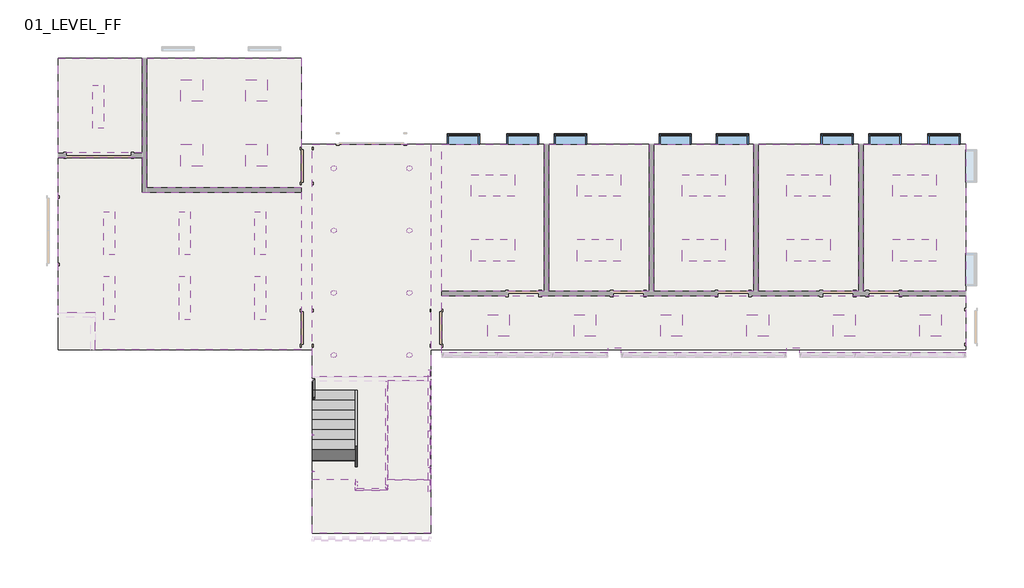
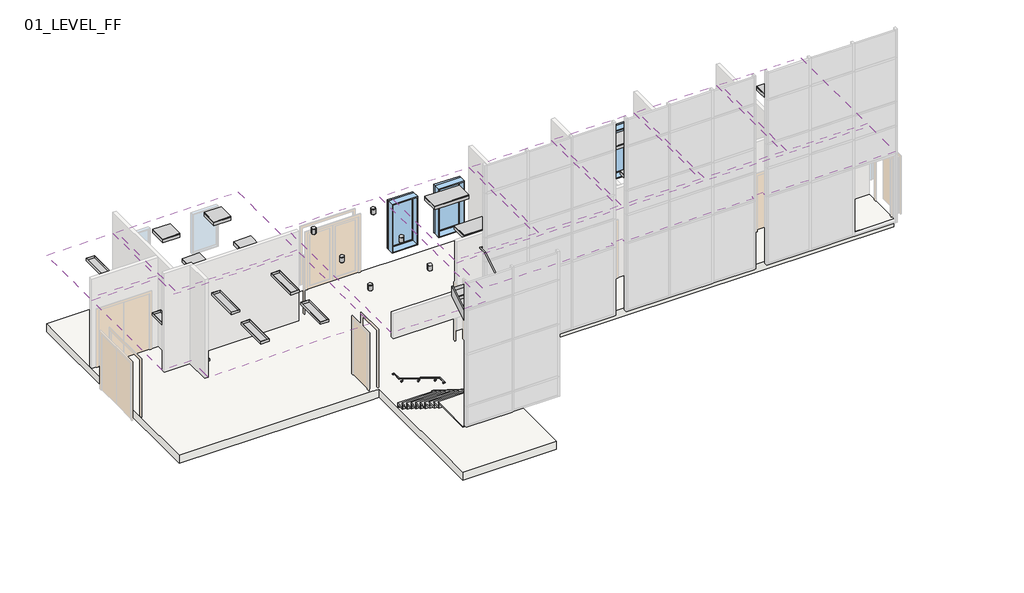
# One storey, part 3 of 3: 35 light fixtures, 10 coverings, 8 windows, 5 members, 5 proxies, 2 railings, 2 slabs, 2 stair flights.
"""IFC4 building model written with IfcOpenShell, lengths in millimetres."""

from ifc_helpers import new_model, si_unit, point, frame, frame_2d, origin, place, context, project, spatial, polyline, circle_curve, ellipse_curve, trimmed, segment, composite_curve, outline, extrude, faceted_brep, transform, mapped, element, save
from ifc_brep_helpers import plane_surface, cylinder_surface, advanced_brep
from components import support_metal_circular_support_metal_circular_ae412147, ceiling_light_linear_box_1_x4_1_lamp_120v_8873ebfc, light_fixture_e8692caf, troffer_light_2x2_parabolic_2_x2_2_lamp_120v_42650cf3, troffer_light_2x4_parabolic_2_x4_2_lamp_120v_ca384779, non_monolithic_landing_28c1c1f5, stair_flight_a3a9bd27, stair_flight_eade957a, window_c524ad49, window_9a1f8bc2

model = new_model("IFC4")

# Units and contexts
model_context = context("Model", 3, world=origin())
ifc_project = project(units=[si_unit("LENGTHUNIT", "METRE", prefix="MILLI")], contexts=[model_context])

# Site, building, storey
site = spatial("IfcSite", under=ifc_project)
building = spatial("IfcBuilding", under=site)
storey = spatial("IfcBuildingStorey", under=building, Name="01_LEVEL_FF", Elevation=0.0)

# Proxies
placement = place(None, origin())
support_metal_circular_support_metal_circular_shape = support_metal_circular_support_metal_circular_ae412147(model_context)
element("IfcBuildingElementProxy", 1, Name="Support - Metal - Circular : Support - Metal - Circular", ObjectType="Support - Metal - Circular : Support - Metal - Circular", at=placement, inside=storey, context=model_context, shape_type="MappedRepresentation", body=[
    mapped(support_metal_circular_support_metal_circular_shape, transform((28337.7316981, 24803.0669189, 1189.2763928), x_axis=(0.0, 1.0, 0.0), y_axis=(-1.0, 0.0, 0.0), z_axis=(0.0, 0.0, 1.0))),
])
element("IfcBuildingElementProxy", 2, Name="Support - Metal - Circular : Support - Metal - Circular", ObjectType="Support - Metal - Circular : Support - Metal - Circular", at=placement, inside=storey, context=model_context, shape_type="MappedRepresentation", body=[
    mapped(support_metal_circular_support_metal_circular_shape, transform((28337.7316981, 23768.4332157, 1834.2428571), x_axis=(0.0, 1.0, 0.0), y_axis=(-1.0, 0.0, 0.0), z_axis=(0.0, 0.0, 1.0))),
])
element("IfcBuildingElementProxy", 3, Name="Support - Metal - Circular : Support - Metal - Circular", ObjectType="Support - Metal - Circular : Support - Metal - Circular", at=placement, inside=storey, context=model_context, shape_type="MappedRepresentation", body=[
    mapped(support_metal_circular_support_metal_circular_shape, transform((28337.7316981, 22733.7995125, 2479.2093215), x_axis=(0.0, 1.0, 0.0), y_axis=(-1.0, 0.0, 0.0), z_axis=(0.0, 0.0, 1.0))),
])
element("IfcBuildingElementProxy", 4, Name="Support - Metal - Circular : Support - Metal - Circular", ObjectType="Support - Metal - Circular : Support - Metal - Circular", at=placement, inside=storey, context=model_context, shape_type="MappedRepresentation", body=[
    mapped(support_metal_circular_support_metal_circular_shape, transform((31576.2316981, 22848.0995125, 3018.0763928), x_axis=(0.0, -1.0, 0.0), y_axis=(1.0, 0.0, 0.0), z_axis=(0.0, 0.0, 1.0))),
])
element("IfcBuildingElementProxy", 5, Name="Support - Metal - Circular : Support - Metal - Circular", ObjectType="Support - Metal - Circular : Support - Metal - Circular", at=placement, inside=storey, context=model_context, shape_type="MappedRepresentation", body=[
    mapped(support_metal_circular_support_metal_circular_shape, transform((31576.2316981, 23882.7332157, 3663.0428571), x_axis=(0.0, -1.0, 0.0), y_axis=(1.0, 0.0, 0.0), z_axis=(0.0, 0.0, 1.0))),
])

# Coverings
element("IfcCovering", 6, ObjectType="2' x 2' ACT System", at=placement, inside=storey, context=model_context, shape_type="SweptSolid", body=[
    extrude(outline(polyline([(34831.2416981, 27819.7332157), (31938.1816981, 27819.7332157), (31938.1816981, 31959.9332157), (34831.2416981, 31959.9332157), (34831.2416981, 27819.7332157)]), holes=[polyline([(33994.3116981, 31109.0332157), (32775.1116981, 31109.0332157), (32775.1116981, 30499.4332157), (33994.3116981, 30499.4332157), (33994.3116981, 31109.0332157)]), polyline([(33994.3116981, 29280.2332157), (32775.1116981, 29280.2332157), (32775.1116981, 28670.6332157), (33994.3116981, 28670.6332157), (33994.3116981, 29280.2332157)])]), frame((0.0, 0.0, 2590.8), z_axis=(0.0, 0.0, 1.0), x_axis=(1.0, 0.0, 0.0)), (0.0, 0.0, 1.0), 57.15),
])
element("IfcCovering", 7, ObjectType="2' x 2' ACT System", at=placement, inside=storey, context=model_context, shape_type="SweptSolid", body=[
    extrude(outline(polyline([(34958.2416981, 27819.7332157), (34958.2416981, 31959.9332157), (37787.8016981, 31959.9332157), (37787.8016981, 27819.7332157), (34958.2416981, 27819.7332157)]), holes=[polyline([(36982.6216981, 31109.0332157), (35763.4216981, 31109.0332157), (35763.4216981, 30499.4332157), (36982.6216981, 30499.4332157), (36982.6216981, 31109.0332157)]), polyline([(36982.6216981, 29280.2332157), (35763.4216981, 29280.2332157), (35763.4216981, 28670.6332157), (36982.6216981, 28670.6332157), (36982.6216981, 29280.2332157)])]), frame((0.0, 0.0, 2590.8), z_axis=(0.0, 0.0, 1.0), x_axis=(1.0, 0.0, 0.0)), (0.0, 0.0, 1.0), 57.15),
])
element("IfcCovering", 8, ObjectType="2' x 2' ACT System", at=placement, inside=storey, context=model_context, shape_type="SweptSolid", body=[
    extrude(outline(polyline([(37914.8016981, 27819.7332157), (37914.8016981, 31959.9332157), (40744.3616981, 31959.9332157), (40744.3616981, 27819.7332157), (37914.8016981, 27819.7332157)]), holes=[polyline([(39939.1816981, 31109.0332157), (38719.9816981, 31109.0332157), (38719.9816981, 30499.4332157), (39939.1816981, 30499.4332157), (39939.1816981, 31109.0332157)]), polyline([(39939.1816981, 29280.2332157), (38719.9816981, 29280.2332157), (38719.9816981, 28670.6332157), (39939.1816981, 28670.6332157), (39939.1816981, 29280.2332157)])]), frame((0.0, 0.0, 2590.8), z_axis=(0.0, 0.0, 1.0), x_axis=(1.0, 0.0, 0.0)), (0.0, 0.0, 1.0), 57.15),
])
element("IfcCovering", 9, ObjectType="2' x 2' ACT System", at=placement, inside=storey, context=model_context, shape_type="SweptSolid", body=[
    extrude(outline(polyline([(40871.3616981, 27819.7332157), (40871.3616981, 31959.9332157), (43700.9216981, 31959.9332157), (43700.9216981, 27819.7332157), (40871.3616981, 27819.7332157)]), holes=[polyline([(42895.7416981, 31109.0332157), (41676.5416981, 31109.0332157), (41676.5416981, 30499.4332157), (42895.7416981, 30499.4332157), (42895.7416981, 31109.0332157)]), polyline([(42895.7416981, 29280.2332157), (41676.5416981, 29280.2332157), (41676.5416981, 28670.6332157), (42895.7416981, 28670.6332157), (42895.7416981, 29280.2332157)])]), frame((0.0, 0.0, 2590.8), z_axis=(0.0, 0.0, 1.0), x_axis=(1.0, 0.0, 0.0)), (0.0, 0.0, 1.0), 57.15),
])
element("IfcCovering", 10, ObjectType="2' x 2' ACT System", at=placement, inside=storey, context=model_context, shape_type="SweptSolid", body=[
    extrude(outline(polyline([(46720.9816981, 31959.9332157), (46720.9816981, 27819.7332157), (43827.9216981, 27819.7332157), (43827.9216981, 31959.9332157), (46720.9816981, 31959.9332157)]), holes=[polyline([(45884.0516981, 31109.0332157), (44664.8516981, 31109.0332157), (44664.8516981, 30499.4332157), (45884.0516981, 30499.4332157), (45884.0516981, 31109.0332157)]), polyline([(45884.0516981, 29280.2332157), (44664.8516981, 29280.2332157), (44664.8516981, 28670.6332157), (45884.0516981, 28670.6332157), (45884.0516981, 29280.2332157)])]), frame((0.0, 0.0, 2590.8), z_axis=(0.0, 0.0, 1.0), x_axis=(1.0, 0.0, 0.0)), (0.0, 0.0, 1.0), 57.15),
])
element("IfcCovering", 11, ObjectType="2' x 2' ACT System", at=placement, inside=storey, context=model_context, shape_type="SweptSolid", body=[
    extrude(outline(polyline([(23619.6816981, 34398.3332157), (27975.7816981, 34398.3332157), (27975.7816981, 32112.3332157), (27975.7816981, 30740.7332157), (23619.6816981, 30740.7332157), (23619.6816981, 34398.3332157)]), holes=[polyline([(25188.1316981, 33788.7332157), (24578.5316981, 33788.7332157), (24578.5316981, 33179.1332157), (25188.1316981, 33179.1332157), (25188.1316981, 33788.7332157)]), polyline([(27016.9316981, 33788.7332157), (26407.3316981, 33788.7332157), (26407.3316981, 33179.1332157), (27016.9316981, 33179.1332157), (27016.9316981, 33788.7332157)]), polyline([(27016.9316981, 31959.9332157), (26407.3316981, 31959.9332157), (26407.3316981, 31350.3332157), (27016.9316981, 31350.3332157), (27016.9316981, 31959.9332157)]), polyline([(25188.1316981, 31959.9332157), (24578.5316981, 31959.9332157), (24578.5316981, 31350.3332157), (25188.1316981, 31350.3332157), (25188.1316981, 31959.9332157)])]), frame((0.0, 0.0, 2590.8), z_axis=(0.0, 0.0, 1.0), x_axis=(1.0, 0.0, 0.0)), (0.0, 0.0, 1.0), 57.15),
])
element("IfcCovering", 12, ObjectType="2' x 2' ACT System", at=placement, inside=storey, context=model_context, shape_type="SweptSolid", body=[
    extrude(outline(polyline([(46720.9816981, 27692.7332157), (46720.9816981, 26079.8332157), (42034.6816981, 26079.8332157), (42034.6816981, 26206.8332157), (41653.6816981, 26206.8332157), (41653.6816981, 26079.8332157), (37005.4816981, 26079.8332157), (37005.4816981, 26206.8332157), (36624.4816981, 26206.8332157), (36624.4816981, 26079.8332157), (31938.1816981, 26079.8332157), (31938.1816981, 27692.7332157), (46720.9816981, 27692.7332157)]), holes=[polyline([(33843.1816981, 27159.3332157), (33233.5816981, 27159.3332157), (33233.5816981, 26549.7332157), (33843.1816981, 26549.7332157), (33843.1816981, 27159.3332157)]), polyline([(36281.5816981, 27159.3332157), (35671.9816981, 27159.3332157), (35671.9816981, 26549.7332157), (36281.5816981, 26549.7332157), (36281.5816981, 27159.3332157)]), polyline([(38719.9816981, 27159.3332157), (38110.3816981, 27159.3332157), (38110.3816981, 26549.7332157), (38719.9816981, 26549.7332157), (38719.9816981, 27159.3332157)]), polyline([(41158.3816981, 27159.3332157), (40548.7816981, 27159.3332157), (40548.7816981, 26549.7332157), (41158.3816981, 26549.7332157), (41158.3816981, 27159.3332157)]), polyline([(43596.7816981, 27159.3332157), (42987.1816981, 27159.3332157), (42987.1816981, 26549.7332157), (43596.7816981, 26549.7332157), (43596.7816981, 27159.3332157)]), polyline([(46035.1816981, 27159.3332157), (45425.5816981, 27159.3332157), (45425.5816981, 26549.7332157), (46035.1816981, 26549.7332157), (46035.1816981, 27159.3332157)])]), frame((0.0, 0.0, 2590.8), z_axis=(0.0, 0.0, 1.0), x_axis=(1.0, 0.0, 0.0)), (0.0, 0.0, 1.0), 57.15),
])
element("IfcCovering", 13, ObjectType="GWB on Mtl. Stud", at=placement, inside=storey, context=model_context, shape_type="SweptSolid", body=[
    extrude(outline(polyline([(22159.1816981, 27210.1332157), (21117.7816981, 27210.1332157), (21117.7816981, 31591.6332157), (23492.6816981, 31591.6332157), (23492.6816981, 30613.7332157), (27975.7816981, 30613.7332157), (27975.7816981, 26168.7332157), (22159.1816981, 26168.7332157), (22159.1816981, 27210.1332157)])), frame((0.0, 0.0, 2590.8), z_axis=(0.0, 0.0, 1.0), x_axis=(1.0, 0.0, 0.0)), (0.0, 0.0, 1.0), 107.95),
])
element("IfcCovering", 14, ObjectType="GWB on Mtl. Stud", at=placement, inside=storey, context=model_context, shape_type="SweptSolid", body=[
    extrude(outline(polyline([(21117.7816981, 34398.3332157), (23492.6816981, 34398.3332157), (23492.6816981, 31718.6332157), (21117.7816981, 31718.6332157), (21117.7816981, 34398.3332157)])), frame((0.0, 0.0, 2590.8), z_axis=(0.0, 0.0, 1.0), x_axis=(1.0, 0.0, 0.0)), (0.0, 0.0, 1.0), 107.95),
])
element("IfcCovering", 15, ObjectType="GWB on Mtl. Stud", at=placement, inside=storey, context=model_context, shape_type="SweptSolid", body=[
    extrude(outline(polyline([(28280.5816981, 26016.3332157), (28280.5816981, 31959.9332157), (31633.3816981, 31959.9332157), (31633.3816981, 26016.3332157), (31633.3816981, 25406.7332157), (28280.5816981, 25406.7332157), (28280.5816981, 26016.3332157)]), holes=[composite_curve([segment(trimmed(circle_curve(frame_2d((28890.1816981, 31286.8332157)), 76.2), [point((28813.9816981, 31286.8332157))], [point((28966.3816981, 31286.8332157))], True, "CARTESIAN"), True, "CONTINUOUS"), segment(trimmed(circle_curve(frame_2d((28890.1816981, 31286.8332157)), 76.2), [point((28966.3816981, 31286.8332157))], [point((28813.9816981, 31286.8332157))], True, "CARTESIAN"), True, "CONTINUOUS")], self_intersect=False), composite_curve([segment(trimmed(circle_curve(frame_2d((28890.1816981, 26016.3332157)), 76.2), [point((28813.9816981, 26016.3332157))], [point((28966.3816981, 26016.3332157))], True, "CARTESIAN"), True, "CONTINUOUS"), segment(trimmed(circle_curve(frame_2d((28890.1816981, 26016.3332157)), 76.2), [point((28966.3816981, 26016.3332157))], [point((28813.9816981, 26016.3332157))], True, "CARTESIAN"), True, "CONTINUOUS")], self_intersect=False), composite_curve([segment(trimmed(circle_curve(frame_2d((28890.1816981, 27773.166549)), 76.2), [point((28813.9816981, 27773.166549))], [point((28966.3816981, 27773.166549))], True, "CARTESIAN"), True, "CONTINUOUS"), segment(trimmed(circle_curve(frame_2d((28890.1816981, 27773.166549)), 76.2), [point((28966.3816981, 27773.166549))], [point((28813.9816981, 27773.166549))], True, "CARTESIAN"), True, "CONTINUOUS")], self_intersect=False), composite_curve([segment(trimmed(circle_curve(frame_2d((28890.1816981, 29529.9998824)), 76.2), [point((28813.9816981, 29529.9998824))], [point((28966.3816981, 29529.9998824))], True, "CARTESIAN"), True, "CONTINUOUS"), segment(trimmed(circle_curve(frame_2d((28890.1816981, 29529.9998824)), 76.2), [point((28966.3816981, 29529.9998824))], [point((28813.9816981, 29529.9998824))], True, "CARTESIAN"), True, "CONTINUOUS")], self_intersect=False), composite_curve([segment(trimmed(circle_curve(frame_2d((31023.7816981, 31286.8332157)), 76.2), [point((31099.9816981, 31286.8332157))], [point((30947.5816981, 31286.8332157))], True, "CARTESIAN"), True, "CONTINUOUS"), segment(trimmed(circle_curve(frame_2d((31023.7816981, 31286.8332157)), 76.2), [point((30947.5816981, 31286.8332157))], [point((31099.9816981, 31286.8332157))], True, "CARTESIAN"), True, "CONTINUOUS")], self_intersect=False), composite_curve([segment(trimmed(circle_curve(frame_2d((31023.7816981, 26016.3332157)), 76.2), [point((31099.9816981, 26016.3332157))], [point((30947.5816981, 26016.3332157))], True, "CARTESIAN"), True, "CONTINUOUS"), segment(trimmed(circle_curve(frame_2d((31023.7816981, 26016.3332157)), 76.2), [point((30947.5816981, 26016.3332157))], [point((31099.9816981, 26016.3332157))], True, "CARTESIAN"), True, "CONTINUOUS")], self_intersect=False), composite_curve([segment(trimmed(circle_curve(frame_2d((31023.7816981, 29529.9998824)), 76.2), [point((31099.9816981, 29529.9998824))], [point((30947.5816981, 29529.9998824))], True, "CARTESIAN"), True, "CONTINUOUS"), segment(trimmed(circle_curve(frame_2d((31023.7816981, 29529.9998824)), 76.2), [point((30947.5816981, 29529.9998824))], [point((31099.9816981, 29529.9998824))], True, "CARTESIAN"), True, "CONTINUOUS")], self_intersect=False), composite_curve([segment(trimmed(circle_curve(frame_2d((31023.7816981, 27773.166549)), 76.2), [point((31099.9816981, 27773.166549))], [point((30947.5816981, 27773.166549))], True, "CARTESIAN"), True, "CONTINUOUS"), segment(trimmed(circle_curve(frame_2d((31023.7816981, 27773.166549)), 76.2), [point((30947.5816981, 27773.166549))], [point((31099.9816981, 27773.166549))], True, "CARTESIAN"), True, "CONTINUOUS")], self_intersect=False)]), frame((0.0, 0.0, 2590.8), z_axis=(0.0, 0.0, 1.0), x_axis=(1.0, 0.0, 0.0)), (0.0, 0.0, 1.0), 107.95),
])

# Light fixtures
ceiling_light_linear_box_1_x4_1_lamp_120v_shape = ceiling_light_linear_box_1_x4_1_lamp_120v_8873ebfc(model_context)
element("IfcLightFixture", 16, ObjectType="Ceiling Light - Linear Box : 1'x4'(1 Lamp) - 120V", at=placement, inside=storey, context=model_context, shape_type="MappedRepresentation", body=[
    mapped(ceiling_light_linear_box_1_x4_1_lamp_120v_shape, transform((22248.0816981, 33026.7332157, 152.4), x_axis=(0.0, 1.0, 0.0), y_axis=(-1.0, 0.0, 0.0), z_axis=(0.0, 0.0, 1.0))),
])
element("IfcLightFixture", 17, ObjectType="Ceiling Light - Linear Box : 1'x4'(1 Lamp) - 120V", at=placement, inside=storey, context=model_context, shape_type="MappedRepresentation", body=[
    mapped(ceiling_light_linear_box_1_x4_1_lamp_120v_shape, transform((22552.8816981, 29458.0332157, 152.4), x_axis=(0.0, 1.0, 0.0), y_axis=(-1.0, 0.0, 0.0), z_axis=(0.0, 0.0, 1.0))),
])
element("IfcLightFixture", 18, ObjectType="Ceiling Light - Linear Box : 1'x4'(1 Lamp) - 120V", at=placement, inside=storey, context=model_context, shape_type="MappedRepresentation", body=[
    mapped(ceiling_light_linear_box_1_x4_1_lamp_120v_shape, transform((26820.0816981, 29458.0332157, 152.4), x_axis=(0.0, 1.0, 0.0), y_axis=(-1.0, 0.0, 0.0), z_axis=(0.0, 0.0, 1.0))),
])
element("IfcLightFixture", 19, ObjectType="Ceiling Light - Linear Box : 1'x4'(1 Lamp) - 120V", at=placement, inside=storey, context=model_context, shape_type="MappedRepresentation", body=[
    mapped(ceiling_light_linear_box_1_x4_1_lamp_120v_shape, transform((24686.4816981, 29458.0332157, 152.4), x_axis=(0.0, 1.0, 0.0), y_axis=(-1.0, 0.0, 0.0), z_axis=(0.0, 0.0, 1.0))),
])
element("IfcLightFixture", 20, ObjectType="Ceiling Light - Linear Box : 1'x4'(1 Lamp) - 120V", at=placement, inside=storey, context=model_context, shape_type="MappedRepresentation", body=[
    mapped(ceiling_light_linear_box_1_x4_1_lamp_120v_shape, transform((22552.8816981, 27629.2332157, 152.4), x_axis=(0.0, 1.0, 0.0), y_axis=(-1.0, 0.0, 0.0), z_axis=(0.0, 0.0, 1.0))),
])
element("IfcLightFixture", 21, ObjectType="Ceiling Light - Linear Box : 1'x4'(1 Lamp) - 120V", at=placement, inside=storey, context=model_context, shape_type="MappedRepresentation", body=[
    mapped(ceiling_light_linear_box_1_x4_1_lamp_120v_shape, transform((26820.0816981, 27629.2332157, 152.4), x_axis=(0.0, 1.0, 0.0), y_axis=(-1.0, 0.0, 0.0), z_axis=(0.0, 0.0, 1.0))),
])
element("IfcLightFixture", 22, ObjectType="Ceiling Light - Linear Box : 1'x4'(1 Lamp) - 120V", at=placement, inside=storey, context=model_context, shape_type="MappedRepresentation", body=[
    mapped(ceiling_light_linear_box_1_x4_1_lamp_120v_shape, transform((24686.4816981, 27629.2332157, 152.4), x_axis=(0.0, 1.0, 0.0), y_axis=(-1.0, 0.0, 0.0), z_axis=(0.0, 0.0, 1.0))),
])
light_fixture_shape = light_fixture_e8692caf(model_context)
element("IfcLightFixture", 23, ObjectType="Downlight - Recessed Can : 6\" Incandescent - 120V", at=placement, inside=storey, context=model_context, shape_type="MappedRepresentation", body=[
    mapped(light_fixture_shape, transform((28890.1816981, 31286.8332157, 152.4), x_axis=(1.0, 0.0, 0.0), y_axis=(0.0, 1.0, 0.0), z_axis=(0.0, 0.0, 1.0))),
])
element("IfcLightFixture", 24, ObjectType="Downlight - Recessed Can : 6\" Incandescent - 120V", at=placement, inside=storey, context=model_context, shape_type="MappedRepresentation", body=[
    mapped(light_fixture_shape, transform((28890.1816981, 26016.3332157, 152.4), x_axis=(1.0, 0.0, 0.0), y_axis=(0.0, 1.0, 0.0), z_axis=(0.0, 0.0, 1.0))),
])
element("IfcLightFixture", 25, ObjectType="Downlight - Recessed Can : 6\" Incandescent - 120V", at=placement, inside=storey, context=model_context, shape_type="MappedRepresentation", body=[
    mapped(light_fixture_shape, transform((28890.1816981, 29529.9998824, 152.4), x_axis=(1.0, 0.0, 0.0), y_axis=(0.0, 1.0, 0.0), z_axis=(0.0, 0.0, 1.0))),
])
element("IfcLightFixture", 26, ObjectType="Downlight - Recessed Can : 6\" Incandescent - 120V", at=placement, inside=storey, context=model_context, shape_type="MappedRepresentation", body=[
    mapped(light_fixture_shape, transform((28890.1816981, 27773.166549, 152.4), x_axis=(1.0, 0.0, 0.0), y_axis=(0.0, 1.0, 0.0), z_axis=(0.0, 0.0, 1.0))),
])
element("IfcLightFixture", 27, ObjectType="Downlight - Recessed Can : 6\" Incandescent - 120V", at=placement, inside=storey, context=model_context, shape_type="MappedRepresentation", body=[
    mapped(light_fixture_shape, transform((31023.7816981, 31286.8332157, 152.4), x_axis=(-1.0, 0.0, 0.0), y_axis=(0.0, -1.0, 0.0), z_axis=(0.0, 0.0, 1.0))),
])
element("IfcLightFixture", 28, ObjectType="Downlight - Recessed Can : 6\" Incandescent - 120V", at=placement, inside=storey, context=model_context, shape_type="MappedRepresentation", body=[
    mapped(light_fixture_shape, transform((31023.7816981, 26016.3332157, 152.4), x_axis=(-1.0, 0.0, 0.0), y_axis=(0.0, -1.0, 0.0), z_axis=(0.0, 0.0, 1.0))),
])
element("IfcLightFixture", 29, ObjectType="Downlight - Recessed Can : 6\" Incandescent - 120V", at=placement, inside=storey, context=model_context, shape_type="MappedRepresentation", body=[
    mapped(light_fixture_shape, transform((31023.7816981, 29529.9998824, 152.4), x_axis=(-1.0, 0.0, 0.0), y_axis=(0.0, -1.0, 0.0), z_axis=(0.0, 0.0, 1.0))),
])
element("IfcLightFixture", 30, ObjectType="Downlight - Recessed Can : 6\" Incandescent - 120V", at=placement, inside=storey, context=model_context, shape_type="MappedRepresentation", body=[
    mapped(light_fixture_shape, transform((31023.7816981, 27773.166549, 152.4), x_axis=(-1.0, 0.0, 0.0), y_axis=(0.0, -1.0, 0.0), z_axis=(0.0, 0.0, 1.0))),
])
troffer_light_2x2_parabolic_2_x2_2_lamp_120v_shape = troffer_light_2x2_parabolic_2_x2_2_lamp_120v_42650cf3(model_context)
element("IfcLightFixture", 31, ObjectType="Troffer Light - 2x2 Parabolic : 2'x2'(2 Lamp) - 120V", at=placement, inside=storey, context=model_context, shape_type="MappedRepresentation", body=[
    mapped(troffer_light_2x2_parabolic_2_x2_2_lamp_120v_shape, transform((24902.0351997, 33543.3991478, 152.4), x_axis=(1.0, 0.0, 0.0), y_axis=(0.0, 1.0, 0.0), z_axis=(0.0, 0.0, 1.0))),
])
element("IfcLightFixture", 32, ObjectType="Troffer Light - 2x2 Parabolic : 2'x2'(2 Lamp) - 120V", at=placement, inside=storey, context=model_context, shape_type="MappedRepresentation", body=[
    mapped(troffer_light_2x2_parabolic_2_x2_2_lamp_120v_shape, transform((33557.0851997, 26913.9991478, 152.4), x_axis=(1.0, 0.0, 0.0), y_axis=(0.0, 1.0, 0.0), z_axis=(0.0, 0.0, 1.0))),
])
element("IfcLightFixture", 33, ObjectType="Troffer Light - 2x2 Parabolic : 2'x2'(2 Lamp) - 120V", at=placement, inside=storey, context=model_context, shape_type="MappedRepresentation", body=[
    mapped(troffer_light_2x2_parabolic_2_x2_2_lamp_120v_shape, transform((35995.4851997, 26913.9991478, 152.4), x_axis=(1.0, 0.0, 0.0), y_axis=(0.0, 1.0, 0.0), z_axis=(0.0, 0.0, 1.0))),
])
element("IfcLightFixture", 34, ObjectType="Troffer Light - 2x2 Parabolic : 2'x2'(2 Lamp) - 120V", at=placement, inside=storey, context=model_context, shape_type="MappedRepresentation", body=[
    mapped(troffer_light_2x2_parabolic_2_x2_2_lamp_120v_shape, transform((38433.8851997, 26913.9991478, 152.4), x_axis=(1.0, 0.0, 0.0), y_axis=(0.0, 1.0, 0.0), z_axis=(0.0, 0.0, 1.0))),
])
element("IfcLightFixture", 35, ObjectType="Troffer Light - 2x2 Parabolic : 2'x2'(2 Lamp) - 120V", at=placement, inside=storey, context=model_context, shape_type="MappedRepresentation", body=[
    mapped(troffer_light_2x2_parabolic_2_x2_2_lamp_120v_shape, transform((40872.2851997, 26913.9991478, 152.4), x_axis=(1.0, 0.0, 0.0), y_axis=(0.0, 1.0, 0.0), z_axis=(0.0, 0.0, 1.0))),
])
element("IfcLightFixture", 36, ObjectType="Troffer Light - 2x2 Parabolic : 2'x2'(2 Lamp) - 120V", at=placement, inside=storey, context=model_context, shape_type="MappedRepresentation", body=[
    mapped(troffer_light_2x2_parabolic_2_x2_2_lamp_120v_shape, transform((43310.6851997, 26913.9991478, 152.4), x_axis=(1.0, 0.0, 0.0), y_axis=(0.0, 1.0, 0.0), z_axis=(0.0, 0.0, 1.0))),
])
element("IfcLightFixture", 37, ObjectType="Troffer Light - 2x2 Parabolic : 2'x2'(2 Lamp) - 120V", at=placement, inside=storey, context=model_context, shape_type="MappedRepresentation", body=[
    mapped(troffer_light_2x2_parabolic_2_x2_2_lamp_120v_shape, transform((45749.0851997, 26913.9991478, 152.4), x_axis=(1.0, 0.0, 0.0), y_axis=(0.0, 1.0, 0.0), z_axis=(0.0, 0.0, 1.0))),
])
element("IfcLightFixture", 38, ObjectType="Troffer Light - 2x2 Parabolic : 2'x2'(2 Lamp) - 120V", at=placement, inside=storey, context=model_context, shape_type="MappedRepresentation", body=[
    mapped(troffer_light_2x2_parabolic_2_x2_2_lamp_120v_shape, transform((26730.8351997, 33543.3991478, 152.4), x_axis=(1.0, 0.0, 0.0), y_axis=(0.0, 1.0, 0.0), z_axis=(0.0, 0.0, 1.0))),
])
element("IfcLightFixture", 39, ObjectType="Troffer Light - 2x2 Parabolic : 2'x2'(2 Lamp) - 120V", at=placement, inside=storey, context=model_context, shape_type="MappedRepresentation", body=[
    mapped(troffer_light_2x2_parabolic_2_x2_2_lamp_120v_shape, transform((26730.8351997, 31714.5991478, 152.4), x_axis=(1.0, 0.0, 0.0), y_axis=(0.0, 1.0, 0.0), z_axis=(0.0, 0.0, 1.0))),
])
element("IfcLightFixture", 40, ObjectType="Troffer Light - 2x2 Parabolic : 2'x2'(2 Lamp) - 120V", at=placement, inside=storey, context=model_context, shape_type="MappedRepresentation", body=[
    mapped(troffer_light_2x2_parabolic_2_x2_2_lamp_120v_shape, transform((24902.0351997, 31714.5991478, 152.4), x_axis=(1.0, 0.0, 0.0), y_axis=(0.0, 1.0, 0.0), z_axis=(0.0, 0.0, 1.0))),
])
troffer_light_2x4_parabolic_2_x4_2_lamp_120v_shape = troffer_light_2x4_parabolic_2_x4_2_lamp_120v_ca384779(model_context)
element("IfcLightFixture", 41, ObjectType="Troffer Light - 2x4 Parabolic : 2'x4'(2 Lamp) - 120V", at=placement, inside=storey, context=model_context, shape_type="MappedRepresentation", body=[
    mapped(troffer_light_2x4_parabolic_2_x4_2_lamp_120v_shape, transform((33403.4151997, 30863.6991478, 152.4), x_axis=(1.0, 0.0, 0.0), y_axis=(0.0, 1.0, 0.0), z_axis=(0.0, 0.0, 1.0))),
])
element("IfcLightFixture", 42, ObjectType="Troffer Light - 2x4 Parabolic : 2'x4'(2 Lamp) - 120V", at=placement, inside=storey, context=model_context, shape_type="MappedRepresentation", body=[
    mapped(troffer_light_2x4_parabolic_2_x4_2_lamp_120v_shape, transform((33403.4151997, 29034.8991478, 152.4), x_axis=(1.0, 0.0, 0.0), y_axis=(0.0, 1.0, 0.0), z_axis=(0.0, 0.0, 1.0))),
])
element("IfcLightFixture", 43, ObjectType="Troffer Light - 2x4 Parabolic : 2'x4'(2 Lamp) - 120V", at=placement, inside=storey, context=model_context, shape_type="MappedRepresentation", body=[
    mapped(troffer_light_2x4_parabolic_2_x4_2_lamp_120v_shape, transform((36391.7251997, 30863.6991478, 152.4), x_axis=(1.0, 0.0, 0.0), y_axis=(0.0, 1.0, 0.0), z_axis=(0.0, 0.0, 1.0))),
])
element("IfcLightFixture", 44, ObjectType="Troffer Light - 2x4 Parabolic : 2'x4'(2 Lamp) - 120V", at=placement, inside=storey, context=model_context, shape_type="MappedRepresentation", body=[
    mapped(troffer_light_2x4_parabolic_2_x4_2_lamp_120v_shape, transform((36391.7251997, 29034.8991478, 152.4), x_axis=(1.0, 0.0, 0.0), y_axis=(0.0, 1.0, 0.0), z_axis=(0.0, 0.0, 1.0))),
])
element("IfcLightFixture", 45, ObjectType="Troffer Light - 2x4 Parabolic : 2'x4'(2 Lamp) - 120V", at=placement, inside=storey, context=model_context, shape_type="MappedRepresentation", body=[
    mapped(troffer_light_2x4_parabolic_2_x4_2_lamp_120v_shape, transform((39348.2851997, 30863.6991478, 152.4), x_axis=(1.0, 0.0, 0.0), y_axis=(0.0, 1.0, 0.0), z_axis=(0.0, 0.0, 1.0))),
])
element("IfcLightFixture", 46, ObjectType="Troffer Light - 2x4 Parabolic : 2'x4'(2 Lamp) - 120V", at=placement, inside=storey, context=model_context, shape_type="MappedRepresentation", body=[
    mapped(troffer_light_2x4_parabolic_2_x4_2_lamp_120v_shape, transform((39348.2851997, 29034.8991478, 152.4), x_axis=(1.0, 0.0, 0.0), y_axis=(0.0, 1.0, 0.0), z_axis=(0.0, 0.0, 1.0))),
])
element("IfcLightFixture", 47, ObjectType="Troffer Light - 2x4 Parabolic : 2'x4'(2 Lamp) - 120V", at=placement, inside=storey, context=model_context, shape_type="MappedRepresentation", body=[
    mapped(troffer_light_2x4_parabolic_2_x4_2_lamp_120v_shape, transform((42304.8451997, 30863.6991478, 152.4), x_axis=(1.0, 0.0, 0.0), y_axis=(0.0, 1.0, 0.0), z_axis=(0.0, 0.0, 1.0))),
])
element("IfcLightFixture", 48, ObjectType="Troffer Light - 2x4 Parabolic : 2'x4'(2 Lamp) - 120V", at=placement, inside=storey, context=model_context, shape_type="MappedRepresentation", body=[
    mapped(troffer_light_2x4_parabolic_2_x4_2_lamp_120v_shape, transform((42304.8451997, 29034.8991478, 152.4), x_axis=(1.0, 0.0, 0.0), y_axis=(0.0, 1.0, 0.0), z_axis=(0.0, 0.0, 1.0))),
])
element("IfcLightFixture", 49, ObjectType="Troffer Light - 2x4 Parabolic : 2'x4'(2 Lamp) - 120V", at=placement, inside=storey, context=model_context, shape_type="MappedRepresentation", body=[
    mapped(troffer_light_2x4_parabolic_2_x4_2_lamp_120v_shape, transform((45293.1551997, 30863.6991478, 152.4), x_axis=(1.0, 0.0, 0.0), y_axis=(0.0, 1.0, 0.0), z_axis=(0.0, 0.0, 1.0))),
])
element("IfcLightFixture", 50, ObjectType="Troffer Light - 2x4 Parabolic : 2'x4'(2 Lamp) - 120V", at=placement, inside=storey, context=model_context, shape_type="MappedRepresentation", body=[
    mapped(troffer_light_2x4_parabolic_2_x4_2_lamp_120v_shape, transform((45293.1551997, 29034.8991478, 152.4), x_axis=(1.0, 0.0, 0.0), y_axis=(0.0, 1.0, 0.0), z_axis=(0.0, 0.0, 1.0))),
])

# Members
element("IfcMember", 51, ObjectType="Stringer - 2\" Width", at=placement, inside=storey, context=model_context, shape_type="SweptSolid", body=[
    extrude(outline(polyline([(25025.7332157, 213.7528305), (25025.7332157, 0.0), (24792.4555405, 0.0), (22365.1680405, 1513.1142857), (22452.3908813, 1817.9142857), (25025.7332157, 213.7528305)])), frame((29499.7816981, 0.0, 0.0), z_axis=(1.0, 0.0, 0.0), x_axis=(0.0, 1.0, 0.0)), (0.0, 0.0, 1.0), 50.8),
])
element("IfcMember", 52, ObjectType="Stringer - 2\" Width", at=placement, inside=storey, context=model_context, shape_type="SweptSolid", body=[
    extrude(outline(polyline([(22352.2983909, 1513.1142857), (22265.07555, 1817.9142857), (25279.7332157, 3697.181402), (25279.7332157, 3338.008722), (22352.2983909, 1513.1142857)])), frame((30363.3816981, 0.0, 0.0), z_axis=(1.0, 0.0, 0.0), x_axis=(0.0, 1.0, 0.0)), (0.0, 0.0, 1.0), 50.8),
])
element("IfcMember", 53, ObjectType="Stringer - 2\" Width", at=placement, inside=storey, context=model_context, shape_type="Brep", body=[
    faceted_brep([(30414.1816981, 22265.07555, 1817.9142857), (30363.3816981, 22265.07555, 1817.9142857), (30363.3816981, 22257.1332157, 1817.9142857), (30414.1816981, 22206.3332157, 1817.9142857), (30414.1816981, 22352.2983909, 1513.1142857), (30414.1816981, 22206.3332157, 1513.1142857), (30363.3816981, 22352.2983909, 1513.1142857), (30363.3816981, 22257.1332157, 1513.1142857)], [[[0, 1, 2, 3]], [[4, 0, 3, 5]], [[6, 4, 5, 7]], [[1, 6, 7, 2]], [[1, 0, 4, 6]], [[2, 7, 5, 3]]]),
])
element("IfcMember", 54, ObjectType="Stringer - 2\" Width", at=placement, inside=storey, context=model_context, shape_type="SweptSolid", body=[
    extrude(outline(polyline([(30363.3816981, 22257.1332157), (30414.1816981, 22206.3332157), (29499.7816981, 22206.3332157), (29550.5816981, 22257.1332157), (30363.3816981, 22257.1332157)])), frame((0.0, 0.0, 1513.1142857), z_axis=(0.0, 0.0, 1.0), x_axis=(1.0, 0.0, 0.0)), (0.0, 0.0, 1.0), 304.8),
])
element("IfcMember", 55, ObjectType="Stringer - 2\" Width", at=placement, inside=storey, context=model_context, shape_type="Brep", body=[
    faceted_brep([(29499.7816981, 22206.3332157, 1817.9142857), (29550.5816981, 22257.1332157, 1817.9142857), (29550.5816981, 22452.3908813, 1817.9142857), (29499.7816981, 22452.3908813, 1817.9142857), (29499.7816981, 22206.3332157, 1513.1142857), (29499.7816981, 22365.1680405, 1513.1142857), (29550.5816981, 22257.1332157, 1513.1142857), (29550.5816981, 22365.1680405, 1513.1142857)], [[[0, 1, 2, 3]], [[4, 0, 3, 5]], [[6, 4, 5, 7]], [[1, 6, 7, 2]], [[1, 0, 4, 6]], [[2, 7, 5, 3]]]),
])

# Railings
element("IfcRailing", 56, ObjectType="Handrail Only - Pipe", at=placement, inside=storey, context=model_context, shape_type="AdvancedBrep", body=[
    advanced_brep(
    [(28356.7816981, 25020.2817881, 1069.5214286), (28318.6816981, 25020.2817881, 1069.5214286), (28318.6816981, 22505.6817881, 2637.0642857), (28356.7816981, 22505.6817881, 2637.0642857), (28280.5816981, 25311.4832157, 1069.5214286), (28280.5816981, 25349.5832157, 1069.5214286), (28318.6816981, 25311.4832157, 1069.5214286), (28356.7816981, 25349.5832157, 1069.5214286), (28318.6816981, 22225.3832157, 2637.0642857), (28356.7816981, 22187.2832157, 2637.0642857), (28280.5816981, 22225.3832157, 2637.0642857), (28280.5816981, 22187.2832157, 2637.0642857)],
    [
        (0, 1, ellipse_curve(frame((28337.7316981, 25020.2817881, 1069.5214286), z_axis=(0.0, -0.9614096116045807, 0.27512098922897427), x_axis=(0.0, -0.2751209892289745, -0.9614096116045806)), 19.8146552, 19.05)),
        (1, 2),
        (2, 3, ellipse_curve(frame((28337.7316981, 22505.6817881, 2637.0642857), z_axis=(0.0, 0.9614096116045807, -0.27512098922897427), x_axis=(0.0, -0.2751209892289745, -0.9614096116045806)), 19.8146552, 19.05)),
        (3, 0),
        (1, 0, ellipse_curve(frame((28337.7316981, 25020.2817881, 1069.5214286), z_axis=(0.0, -0.9614096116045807, 0.27512098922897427), x_axis=(0.0, -0.2751209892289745, -0.9614096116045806)), 19.8146552, 19.05)),
        (3, 2, ellipse_curve(frame((28337.7316981, 22505.6817881, 2637.0642857), z_axis=(0.0, 0.9614096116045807, -0.27512098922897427), x_axis=(0.0, -0.2751209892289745, -0.9614096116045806)), 19.8146552, 19.05)),
        (4, 5, circle_curve(frame((28280.5816981, 25330.5332157, 1069.5214286), z_axis=(-1.0, 0.0, 0.0), x_axis=(0.0, 1.0, 0.0)), 19.05)),
        (5, 4, circle_curve(frame((28280.5816981, 25330.5332157, 1069.5214286), z_axis=(-1.0, 0.0, 0.0), x_axis=(0.0, 1.0, 0.0)), 19.05)),
        (4, 6),
        (6, 7, ellipse_curve(frame((28337.7316981, 25330.5332157, 1069.5214286), z_axis=(-0.7071067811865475, 0.7071067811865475, 0.0), x_axis=(-0.7071067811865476, -0.7071067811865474, 0.0)), 26.9407684, 19.05)),
        (7, 5),
        (7, 6, ellipse_curve(frame((28337.7316981, 25330.5332157, 1069.5214286), z_axis=(-0.7071067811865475, 0.7071067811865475, 0.0), x_axis=(-0.7071067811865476, -0.7071067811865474, 0.0)), 26.9407684, 19.05)),
        (6, 1),
        (0, 7),
        (2, 8),
        (8, 9, ellipse_curve(frame((28337.7316981, 22206.3332157, 2637.0642857), z_axis=(0.7071067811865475, 0.7071067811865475, 0.0), x_axis=(-0.7071067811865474, 0.7071067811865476, 0.0)), 26.9407684, 19.05)),
        (9, 3),
        (9, 8, ellipse_curve(frame((28337.7316981, 22206.3332157, 2637.0642857), z_axis=(0.7071067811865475, 0.7071067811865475, 0.0), x_axis=(-0.7071067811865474, 0.7071067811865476, 0.0)), 26.9407684, 19.05)),
        (10, 11, circle_curve(frame((28280.5816981, 22206.3332157, 2637.0642857), z_axis=(-1.0, 0.0, 0.0), x_axis=(0.0, -1.0, 0.0)), 19.05)),
        (11, 10, circle_curve(frame((28280.5816981, 22206.3332157, 2637.0642857), z_axis=(-1.0, 0.0, 0.0), x_axis=(0.0, -1.0, 0.0)), 19.05)),
        (8, 10),
        (11, 9),
    ],
    [
        cylinder_surface(frame((28337.7316981, 25015.6556147, 1072.405277), z_axis=(0.0, 0.8486168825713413, -0.5290079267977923), x_axis=(1.0, 0.0, 0.0)), 19.05),
        plane_surface(frame((28280.5816981, 25330.5332157, 1088.5714286), z_axis=(-1.0, 0.0, 0.0), x_axis=(0.0, 1.0, 0.0))),
        cylinder_surface(frame((28280.5816981, 25330.5332157, 1069.5214286), z_axis=(-1.0, 0.0, 0.0), x_axis=(0.0, 1.0, 0.0)), 19.05),
        cylinder_surface(frame((28337.7316981, 25330.5332157, 1069.5214286), z_axis=(0.0, 1.0, 0.0), x_axis=(1.0, 0.0, 0.0)), 19.05),
        cylinder_surface(frame((28337.7316981, 22511.1332157, 2637.0642857), z_axis=(0.0, 1.0, 0.0), x_axis=(1.0, 0.0, 0.0)), 19.05),
        plane_surface(frame((28280.5816981, 22206.3332157, 2656.1142857), z_axis=(-1.0, 0.0, 0.0), x_axis=(0.0, -1.0, 0.0))),
        cylinder_surface(frame((28337.7316981, 22206.3332157, 2637.0642857), z_axis=(1.0, 0.0, 0.0), x_axis=(0.0, -1.0, 0.0)), 19.05),
    ],
    [
        (0, [[1, 2, 3, 4]]),
        (0, [[5, -4, 6, -2]]),
        (1, [[7, 8]]),
        (2, [[-7, 9, 10, 11]]),
        (2, [[-8, -11, 12, -9]]),
        (3, [[-10, 13, -1, 14]]),
        (3, [[-12, -14, -5, -13]]),
        (4, [[-3, 15, 16, 17]]),
        (4, [[-6, -17, 18, -15]]),
        (5, [[19, 20]]),
        (6, [[-16, 21, -20, 22]]),
        (6, [[-18, -22, -19, -21]]),
    ],
),
])
element("IfcRailing", 57, ObjectType="Handrail Only - Pipe", at=placement, inside=storey, context=model_context, shape_type="AdvancedBrep", body=[
    advanced_brep(
    [(31633.3816981, 22199.9832157, 2811.2357143), (31633.3816981, 22161.8832157, 2811.2357143), (31595.2816981, 22199.9832157, 2811.2357143), (31557.1816981, 22161.8832157, 2811.2357143), (31595.2816981, 22491.1846432, 2811.2357143), (31557.1816981, 22491.1846432, 2811.2357143), (31595.2816981, 25285.1846432, 4552.95), (31557.1816981, 25285.1846432, 4552.95), (31595.2816981, 25565.4832157, 4552.95), (31557.1816981, 25603.5832157, 4552.95), (31633.3816981, 25565.4832157, 4552.95), (31633.3816981, 25603.5832157, 4552.95)],
    [
        (0, 1, circle_curve(frame((31633.3816981, 22180.9332157, 2811.2357143), z_axis=(1.0, 0.0, 0.0), x_axis=(0.0, -1.0, 0.0)), 19.05)),
        (1, 0, circle_curve(frame((31633.3816981, 22180.9332157, 2811.2357143), z_axis=(1.0, 0.0, 0.0), x_axis=(0.0, -1.0, 0.0)), 19.05)),
        (0, 2),
        (2, 3, ellipse_curve(frame((31576.2316981, 22180.9332157, 2811.2357143), z_axis=(0.7071067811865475, -0.7071067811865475, 0.0), x_axis=(0.7071067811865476, 0.7071067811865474, 0.0)), 26.9407684, 19.05)),
        (3, 1),
        (3, 2, ellipse_curve(frame((31576.2316981, 22180.9332157, 2811.2357143), z_axis=(0.7071067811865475, -0.7071067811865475, 0.0), x_axis=(0.7071067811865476, 0.7071067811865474, 0.0)), 26.9407684, 19.05)),
        (2, 4),
        (4, 5, ellipse_curve(frame((31576.2316981, 22491.1846432, 2811.2357143), z_axis=(0.0, -0.9614096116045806, -0.27512098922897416), x_axis=(0.0, -0.27512098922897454, 0.9614096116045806)), 19.8146552, 19.05)),
        (5, 3),
        (5, 4, ellipse_curve(frame((31576.2316981, 22491.1846432, 2811.2357143), z_axis=(0.0, -0.9614096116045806, -0.27512098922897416), x_axis=(0.0, -0.27512098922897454, 0.9614096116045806)), 19.8146552, 19.05)),
        (4, 6),
        (6, 7, ellipse_curve(frame((31576.2316981, 25285.1846432, 4552.95), z_axis=(0.0, -0.9614096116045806, -0.27512098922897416), x_axis=(0.0, 0.2751209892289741, -0.9614096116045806)), 19.8146552, 19.05)),
        (7, 5),
        (7, 6, ellipse_curve(frame((31576.2316981, 25285.1846432, 4552.95), z_axis=(0.0, -0.9614096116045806, -0.27512098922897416), x_axis=(0.0, 0.2751209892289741, -0.9614096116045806)), 19.8146552, 19.05)),
        (6, 8),
        (8, 9, ellipse_curve(frame((31576.2316981, 25584.5332157, 4552.95), z_axis=(-0.7071067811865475, -0.7071067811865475, 0.0), x_axis=(0.7071067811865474, -0.7071067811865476, 0.0)), 26.9407684, 19.05)),
        (9, 7),
        (9, 8, ellipse_curve(frame((31576.2316981, 25584.5332157, 4552.95), z_axis=(-0.7071067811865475, -0.7071067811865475, 0.0), x_axis=(0.7071067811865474, -0.7071067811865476, 0.0)), 26.9407684, 19.05)),
        (10, 11, circle_curve(frame((31633.3816981, 25584.5332157, 4552.95), z_axis=(1.0, 0.0, 0.0), x_axis=(0.0, 1.0, 0.0)), 19.05)),
        (11, 10, circle_curve(frame((31633.3816981, 25584.5332157, 4552.95), z_axis=(1.0, 0.0, 0.0), x_axis=(0.0, 1.0, 0.0)), 19.05)),
        (8, 10),
        (11, 9),
    ],
    [
        plane_surface(frame((31633.3816981, 22180.9332157, 2830.2857143), z_axis=(1.0, 0.0, 0.0), x_axis=(0.0, -1.0, 0.0))),
        cylinder_surface(frame((31633.3816981, 22180.9332157, 2811.2357143), z_axis=(1.0, 0.0, 0.0), x_axis=(0.0, -1.0, 0.0)), 19.05),
        cylinder_surface(frame((31576.2316981, 22180.9332157, 2811.2357143), z_axis=(0.0, -1.0, 0.0), x_axis=(-1.0, 0.0, 0.0)), 19.05),
        cylinder_surface(frame((31576.2316981, 22495.8108167, 2814.1195627), z_axis=(0.0, -0.8486168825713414, -0.5290079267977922), x_axis=(-1.0, 0.0, 0.0)), 19.05),
        cylinder_surface(frame((31576.2316981, 25279.7332157, 4552.95), z_axis=(0.0, -1.0, 0.0), x_axis=(-1.0, 0.0, 0.0)), 19.05),
        plane_surface(frame((31633.3816981, 25584.5332157, 4572.0), z_axis=(1.0, 0.0, 0.0), x_axis=(0.0, 1.0, 0.0))),
        cylinder_surface(frame((31576.2316981, 25584.5332157, 4552.95), z_axis=(-1.0, 0.0, 0.0), x_axis=(0.0, 1.0, 0.0)), 19.05),
    ],
    [
        (0, [[1, 2]]),
        (1, [[-1, 3, 4, 5]]),
        (1, [[-2, -5, 6, -3]]),
        (2, [[-4, 7, 8, 9]]),
        (2, [[-6, -9, 10, -7]]),
        (3, [[-8, 11, 12, 13]]),
        (3, [[-10, -13, 14, -11]]),
        (4, [[-12, 15, 16, 17]]),
        (4, [[-14, -17, 18, -15]]),
        (5, [[19, 20]]),
        (6, [[-16, 21, -20, 22]]),
        (6, [[-18, -22, -19, -21]]),
    ],
),
])

# Slabs
element("IfcSlab", 58, ObjectType="Generic - 12\"", at=placement, inside=storey, context=model_context, shape_type="Brep", body=[
    faceted_brep([(27975.7816981, 34398.3332157, -304.8), (27975.7816981, 31959.9332157, -304.8), (28280.5816981, 31959.9332157, -304.8), (31633.3816981, 31959.9332157, -304.8), (31938.1816981, 31959.9332157, -304.8), (46720.9816981, 31959.9332157, -304.8), (46720.9816981, 26168.7332157, -304.8), (31938.1816981, 26168.7332157, -304.8), (31633.3816981, 26168.7332157, -304.8), (31633.3816981, 20987.1332157, -304.8), (28280.5816981, 20987.1332157, -304.8), (28280.5816981, 26168.7332157, -304.8), (27975.7816981, 26168.7332157, -304.8), (21117.7816981, 26168.7332157, -304.8), (21117.7816981, 34398.3332157, -304.8), (27975.7816981, 34398.3332157, 0.0), (21117.7816981, 34398.3332157, 0.0), (21117.7816981, 30435.9332157, 0.0), (21117.7816981, 28607.1332157, 0.0), (21117.7816981, 26168.7332157, 0.0), (27975.7816981, 26168.7332157, 0.0), (28280.5816981, 26168.7332157, 0.0), (28280.5816981, 20987.1332157, 0.0), (31633.3816981, 20987.1332157, 0.0), (31633.3816981, 26168.7332157, 0.0), (31938.1816981, 26168.7332157, 0.0), (46720.9816981, 26168.7332157, 0.0), (46720.9816981, 26352.8832157, 0.0), (46720.9816981, 27267.2832157, 0.0), (46720.9816981, 31959.9332157, 0.0), (31938.1816981, 31959.9332157, 0.0), (31633.3816981, 31959.9332157, 0.0), (30871.3816981, 31959.9332157, 0.0), (29042.5816981, 31959.9332157, 0.0), (28280.5816981, 31959.9332157, 0.0), (27975.7816981, 31959.9332157, 0.0)], [[[0, 1, 2, 3, 4, 5, 6, 7, 8, 9, 10, 11, 12, 13, 14]], [[15, 16, 17, 18, 19, 20, 21, 22, 23, 24, 25, 26, 27, 28, 29, 30, 31, 32, 33, 34, 35]], [[1, 0, 15, 35]], [[5, 4, 3, 2, 1, 35, 34, 33, 32, 31, 30, 29]], [[6, 5, 29, 28, 27, 26]], [[8, 7, 6, 26, 25, 24]], [[13, 12, 11, 21, 20, 19]], [[14, 13, 19, 18, 17, 16]], [[0, 14, 16, 15]], [[9, 8, 24, 23]], [[10, 9, 23, 22]], [[11, 10, 22, 21]]]),
])
non_monolithic_landing_shape = non_monolithic_landing_28c1c1f5(model_context)
element("IfcSlab", 59, ObjectType="Non-Monolithic Landing", at=placement, inside=storey, context=model_context, shape_type="MappedRepresentation", body=[
    mapped(non_monolithic_landing_shape, transform((0.0, 0.0, 0.0), x_axis=(1.0, 0.0, 0.0), y_axis=(0.0, 1.0, 0.0), z_axis=(0.0, 0.0, 1.0))),
])

# Stair flights
stair_flight_shape = stair_flight_a3a9bd27(model_context)
element("IfcStairFlight", 60, ObjectType="2\" Tread 1\" Nosing 1/4\" Riser", at=placement, inside=storey, context=model_context, shape_type="MappedRepresentation", body=[
    mapped(stair_flight_shape, transform((0.0, 0.0, 0.0), x_axis=(1.0, 0.0, 0.0), y_axis=(0.0, 1.0, 0.0), z_axis=(0.0, 0.0, 1.0))),
])
stair_flight_2_shape = stair_flight_eade957a(model_context)
element("IfcStairFlight", 61, ObjectType="2\" Tread 1\" Nosing 1/4\" Riser", at=placement, inside=storey, context=model_context, shape_type="MappedRepresentation", body=[
    mapped(stair_flight_2_shape, transform((0.0, 0.0, 0.0), x_axis=(1.0, 0.0, 0.0), y_axis=(0.0, 1.0, 0.0), z_axis=(0.0, 0.0, 1.0))),
])

# Windows
window_shape = window_c524ad49(model_context)
element("IfcWindow", 62, ObjectType="Fixed : 36\" x 72\"", at=placement, inside=storey, context=model_context, shape_type="MappedRepresentation", body=[
    mapped(window_shape, transform((34259.7416981, 32112.3332157, 0.0), x_axis=(1.0, 0.0, 0.0), y_axis=(0.0, 1.0, 0.0), z_axis=(0.0, 0.0, 1.0))),
])
element("IfcWindow", 63, ObjectType="Fixed : 36\" x 72\"", at=placement, inside=storey, context=model_context, shape_type="MappedRepresentation", body=[
    mapped(window_shape, transform((40172.8616981, 32112.3332157, 0.0), x_axis=(1.0, 0.0, 0.0), y_axis=(0.0, 1.0, 0.0), z_axis=(0.0, 0.0, 1.0))),
])
element("IfcWindow", 64, ObjectType="Fixed : 36\" x 72\"", at=placement, inside=storey, context=model_context, shape_type="MappedRepresentation", body=[
    mapped(window_shape, transform((43129.4216981, 32112.3332157, 0.0), x_axis=(1.0, 0.0, 0.0), y_axis=(0.0, 1.0, 0.0), z_axis=(0.0, 0.0, 1.0))),
])
element("IfcWindow", 65, ObjectType="Fixed : 36\" x 72\"", at=placement, inside=storey, context=model_context, shape_type="MappedRepresentation", body=[
    mapped(window_shape, transform((46149.4816981, 32112.3332157, 0.0), x_axis=(1.0, 0.0, 0.0), y_axis=(0.0, 1.0, 0.0), z_axis=(0.0, 0.0, 1.0))),
])
window_2_shape = window_9a1f8bc2(model_context)
element("IfcWindow", 66, ObjectType="Fixed : 36\" x 72\"", at=placement, inside=storey, context=model_context, shape_type="MappedRepresentation", body=[
    mapped(window_2_shape, transform((35529.7416981, 32112.3332157, 0.0), x_axis=(-1.0, 0.0, 0.0), y_axis=(0.0, -1.0, 0.0), z_axis=(0.0, 0.0, 1.0))),
])
element("IfcWindow", 67, ObjectType="Fixed : 36\" x 72\"", at=placement, inside=storey, context=model_context, shape_type="MappedRepresentation", body=[
    mapped(window_2_shape, transform((38486.3016981, 32112.3332157, 0.0), x_axis=(-1.0, 0.0, 0.0), y_axis=(0.0, -1.0, 0.0), z_axis=(0.0, 0.0, 1.0))),
])
element("IfcWindow", 68, ObjectType="Fixed : 36\" x 72\"", at=placement, inside=storey, context=model_context, shape_type="MappedRepresentation", body=[
    mapped(window_2_shape, transform((44399.4216981, 32112.3332157, 0.0), x_axis=(-1.0, 0.0, 0.0), y_axis=(0.0, -1.0, 0.0), z_axis=(0.0, 0.0, 1.0))),
])
element("IfcWindow", 69, ObjectType="Fixed : 36\" x 72\"", at=placement, inside=storey, context=model_context, shape_type="MappedRepresentation", body=[
    mapped(window_2_shape, transform((32509.6816981, 32112.3332157, 0.0), x_axis=(-1.0, 0.0, 0.0), y_axis=(0.0, -1.0, 0.0), z_axis=(0.0, 0.0, 1.0))),
])

save(model, "model.ifc")
